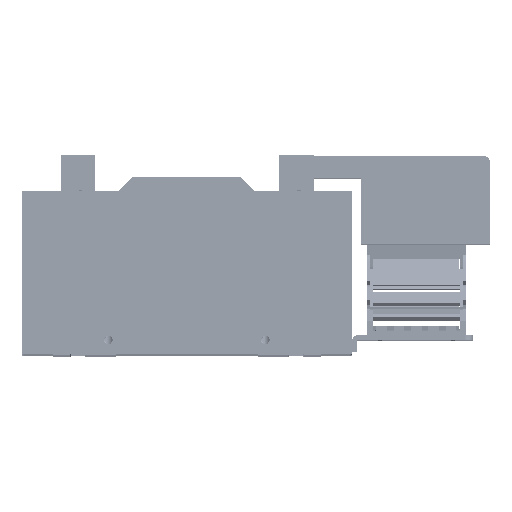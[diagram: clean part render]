
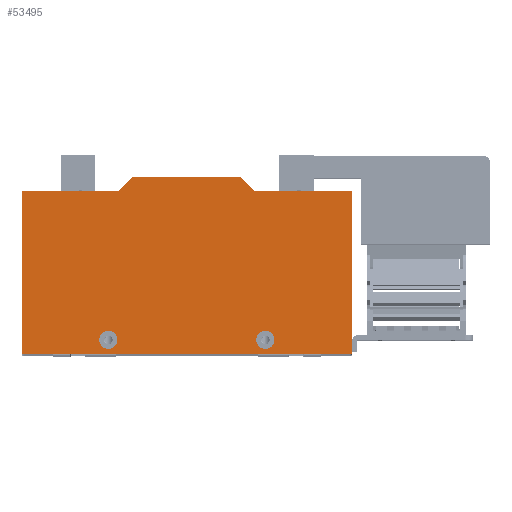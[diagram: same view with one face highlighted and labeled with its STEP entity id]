
A CAD part, top view. The second image highlights one B-rep face of the part: STEP entity #53495.
In plain terms, the highlighted planar face has unit normal (0, 0, 1) as drawn and (0, 0, -1) by its records, which use the part's own axes.
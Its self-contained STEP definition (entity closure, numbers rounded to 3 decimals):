
#7129 = CARTESIAN_POINT ( 'NONE',  ( -130.691, 76.299, 0. ) ) ;
#7131 = DIRECTION ( 'NONE',  ( -1., 0., 0. ) ) ;
#7132 = DIRECTION ( 'NONE',  ( 0., 0., -1. ) ) ;
#7133 = CARTESIAN_POINT ( 'NONE',  ( -125.441, 76.299, 0. ) ) ;
#7134 = AXIS2_PLACEMENT_3D ( 'NONE', #7133, #7132, #7131 ) ;
#7135 = CIRCLE ( 'NONE', #7134, 5.25 ) ;
#7364 = CARTESIAN_POINT ( 'NONE',  ( -120.191, 76.299, 0. ) ) ;
#52277 = VERTEX_POINT ( 'NONE', #124367 ) ;
#52970 = VERTEX_POINT ( 'NONE', #125193 ) ;
#52994 = EDGE_CURVE ( 'NONE', #52277, #52970, #125418, .T. ) ;
#53189 = VERTEX_POINT ( 'NONE', #125644 ) ;
#53269 = VERTEX_POINT ( 'NONE', #125459 ) ;
#53317 = VERTEX_POINT ( 'NONE', #125757 ) ;
#53321 = EDGE_CURVE ( 'NONE', #53362, #53317, #125752, .T. ) ;
#53330 = VERTEX_POINT ( 'NONE', #125732 ) ;
#53338 = EDGE_CURVE ( 'NONE', #53269, #53330, #125941, .T. ) ;
#53353 = EDGE_CURVE ( 'NONE', #53189, #53377, #125926, .T. ) ;
#53362 = VERTEX_POINT ( 'NONE', #125907 ) ;
#53376 = EDGE_CURVE ( 'NONE', #53377, #53269, #125882, .T. ) ;
#53377 = VERTEX_POINT ( 'NONE', #125875 ) ;
#53442 = ORIENTED_EDGE ( 'NONE', *, *, #53353, .T. ) ;
#53443 = ORIENTED_EDGE ( 'NONE', *, *, #53376, .T. ) ;
#53470 = EDGE_CURVE ( 'NONE', #53488, #53317, #126152, .T. ) ;
#53472 = ORIENTED_EDGE ( 'NONE', *, *, #53475, .F. ) ;
#53475 = EDGE_CURVE ( 'NONE', #53189, #53488, #126141, .T. ) ;
#53479 = EDGE_CURVE ( 'NONE', #53362, #53666, #126132, .T. ) ;
#53484 = ORIENTED_EDGE ( 'NONE', *, *, #53321, .T. ) ;
#53487 = ORIENTED_EDGE ( 'NONE', *, *, #53470, .F. ) ;
#53488 = VERTEX_POINT ( 'NONE', #126123 ) ;
#53495 = ADVANCED_FACE ( 'NONE', ( #126118, #126117, #126116 ), #126115, .F. ) ;
#53496 = EDGE_LOOP ( 'NONE', ( #53516, #53520 ) ) ;
#53516 = ORIENTED_EDGE ( 'NONE', *, *, #53518, .F. ) ;
#53518 = EDGE_CURVE ( 'NONE', #64219, #64430, #126077, .T. ) ;
#53520 = ORIENTED_EDGE ( 'NONE', *, *, #64216, .F. ) ;
#53521 = EDGE_LOOP ( 'NONE', ( #53531, #53534 ) ) ;
#53531 = ORIENTED_EDGE ( 'NONE', *, *, #53532, .F. ) ;
#53532 = EDGE_CURVE ( 'NONE', #52970, #52277, #126064, .T. ) ;
#53534 = ORIENTED_EDGE ( 'NONE', *, *, #52994, .F. ) ;
#53538 = EDGE_LOOP ( 'NONE', ( #53541, #53663, #53669, #53484, #53487, #53472, #53442, #53443 ) ) ;
#53541 = ORIENTED_EDGE ( 'NONE', *, *, #53338, .T. ) ;
#53663 = ORIENTED_EDGE ( 'NONE', *, *, #53664, .F. ) ;
#53664 = EDGE_CURVE ( 'NONE', #53666, #53330, #126291, .T. ) ;
#53666 = VERTEX_POINT ( 'NONE', #126287 ) ;
#53669 = ORIENTED_EDGE ( 'NONE', *, *, #53479, .F. ) ;
#64216 = EDGE_CURVE ( 'NONE', #64430, #64219, #7135, .T. ) ;
#64219 = VERTEX_POINT ( 'NONE', #7129 ) ;
#64430 = VERTEX_POINT ( 'NONE', #7364 ) ;
#124367 = CARTESIAN_POINT ( 'NONE',  ( -29.691, 76.299, 0. ) ) ;
#125193 = CARTESIAN_POINT ( 'NONE',  ( -40.191, 76.299, 0. ) ) ;
#125414 = DIRECTION ( 'NONE',  ( -1., 0., 0. ) ) ;
#125415 = DIRECTION ( 'NONE',  ( 0., 0., -1. ) ) ;
#125416 = CARTESIAN_POINT ( 'NONE',  ( -34.941, 76.299, 0. ) ) ;
#125417 = AXIS2_PLACEMENT_3D ( 'NONE', #125416, #125415, #125414 ) ;
#125418 = CIRCLE ( 'NONE', #125417, 5.25 ) ;
#125459 = CARTESIAN_POINT ( 'NONE',  ( 14.809, 84.299, 0. ) ) ;
#125644 = CARTESIAN_POINT ( 'NONE',  ( -175.191, -9.701, 0. ) ) ;
#125732 = CARTESIAN_POINT ( 'NONE',  ( 14.809, -9.701, 0. ) ) ;
#125749 = DIRECTION ( 'NONE',  ( -1., 0., 0. ) ) ;
#125750 = VECTOR ( 'NONE', #125749, 1000. ) ;
#125751 = CARTESIAN_POINT ( 'NONE',  ( 14.809, -17.701, 0. ) ) ;
#125752 = LINE ( 'NONE', #125751, #125750 ) ;
#125757 = CARTESIAN_POINT ( 'NONE',  ( -111.191, -17.701, 0. ) ) ;
#125875 = CARTESIAN_POINT ( 'NONE',  ( -175.191, 84.299, 0. ) ) ;
#125876 = DIRECTION ( 'NONE',  ( 1., 0., 0. ) ) ;
#125877 = VECTOR ( 'NONE', #125876, 1000. ) ;
#125878 = CARTESIAN_POINT ( 'NONE',  ( -175.191, 84.299, 0. ) ) ;
#125882 = LINE ( 'NONE', #125878, #125877 ) ;
#125907 = CARTESIAN_POINT ( 'NONE',  ( -49.191, -17.701, 0. ) ) ;
#125923 = DIRECTION ( 'NONE',  ( 0., 1., 0. ) ) ;
#125924 = VECTOR ( 'NONE', #125923, 1000. ) ;
#125925 = CARTESIAN_POINT ( 'NONE',  ( -175.191, -17.701, 0. ) ) ;
#125926 = LINE ( 'NONE', #125925, #125924 ) ;
#125938 = DIRECTION ( 'NONE',  ( 0., -1., 0. ) ) ;
#125939 = VECTOR ( 'NONE', #125938, 1000. ) ;
#125940 = CARTESIAN_POINT ( 'NONE',  ( 14.809, 84.299, 0. ) ) ;
#125941 = LINE ( 'NONE', #125940, #125939 ) ;
#126060 = DIRECTION ( 'NONE',  ( -1., 0., 0. ) ) ;
#126061 = DIRECTION ( 'NONE',  ( 0., 0., -1. ) ) ;
#126062 = CARTESIAN_POINT ( 'NONE',  ( -34.941, 76.299, 0. ) ) ;
#126063 = AXIS2_PLACEMENT_3D ( 'NONE', #126062, #126061, #126060 ) ;
#126064 = CIRCLE ( 'NONE', #126063, 5.25 ) ;
#126073 = DIRECTION ( 'NONE',  ( -1., 0., 0. ) ) ;
#126074 = DIRECTION ( 'NONE',  ( 0., 0., -1. ) ) ;
#126075 = CARTESIAN_POINT ( 'NONE',  ( -125.441, 76.299, 0. ) ) ;
#126076 = AXIS2_PLACEMENT_3D ( 'NONE', #126075, #126074, #126073 ) ;
#126077 = CIRCLE ( 'NONE', #126076, 5.25 ) ;
#126111 = DIRECTION ( 'NONE',  ( 1., 0., 0. ) ) ;
#126112 = DIRECTION ( 'NONE',  ( 0., 0., 1. ) ) ;
#126113 = CARTESIAN_POINT ( 'NONE',  ( -175.191, 84.299, 0. ) ) ;
#126114 = AXIS2_PLACEMENT_3D ( 'NONE', #126113, #126112, #126111 ) ;
#126115 = PLANE ( 'NONE',  #126114 ) ;
#126116 = FACE_OUTER_BOUND ( 'NONE', #53538, .T. ) ;
#126117 = FACE_BOUND ( 'NONE', #53521, .T. ) ;
#126118 = FACE_BOUND ( 'NONE', #53496, .T. ) ;
#126123 = CARTESIAN_POINT ( 'NONE',  ( -119.191, -9.701, 0. ) ) ;
#126129 = DIRECTION ( 'NONE',  ( 0.707, 0.707, 0. ) ) ;
#126130 = VECTOR ( 'NONE', #126129, 1000. ) ;
#126131 = CARTESIAN_POINT ( 'NONE',  ( -41.191, -9.701, 0. ) ) ;
#126132 = LINE ( 'NONE', #126131, #126130 ) ;
#126138 = DIRECTION ( 'NONE',  ( 1., 0., 0. ) ) ;
#126139 = VECTOR ( 'NONE', #126138, 1000. ) ;
#126140 = CARTESIAN_POINT ( 'NONE',  ( -119.191, -9.701, 0. ) ) ;
#126141 = LINE ( 'NONE', #126140, #126139 ) ;
#126146 = DIRECTION ( 'NONE',  ( 0.707, -0.707, 0. ) ) ;
#126147 = VECTOR ( 'NONE', #126146, 1000. ) ;
#126148 = CARTESIAN_POINT ( 'NONE',  ( -111.191, -17.701, 0. ) ) ;
#126152 = LINE ( 'NONE', #126148, #126147 ) ;
#126287 = CARTESIAN_POINT ( 'NONE',  ( -41.191, -9.701, 0. ) ) ;
#126288 = DIRECTION ( 'NONE',  ( 1., 0., 0. ) ) ;
#126289 = VECTOR ( 'NONE', #126288, 1000. ) ;
#126290 = CARTESIAN_POINT ( 'NONE',  ( 14.809, -9.701, 0. ) ) ;
#126291 = LINE ( 'NONE', #126290, #126289 ) ;
